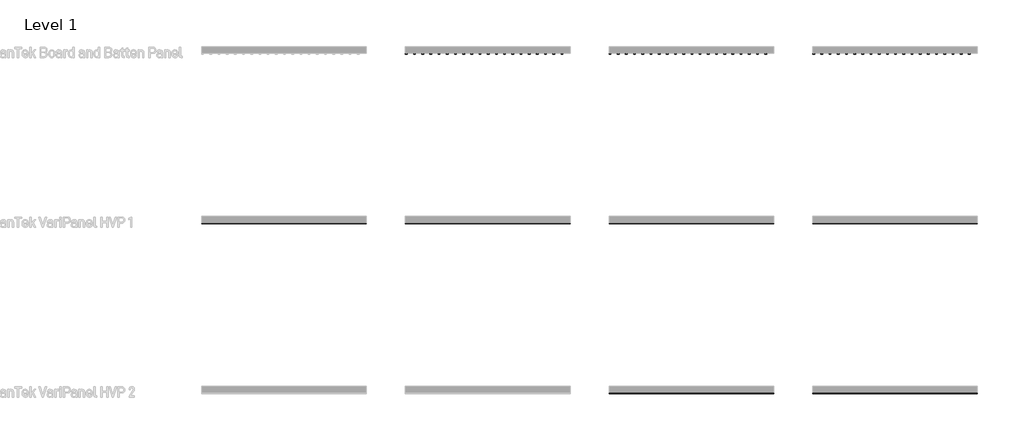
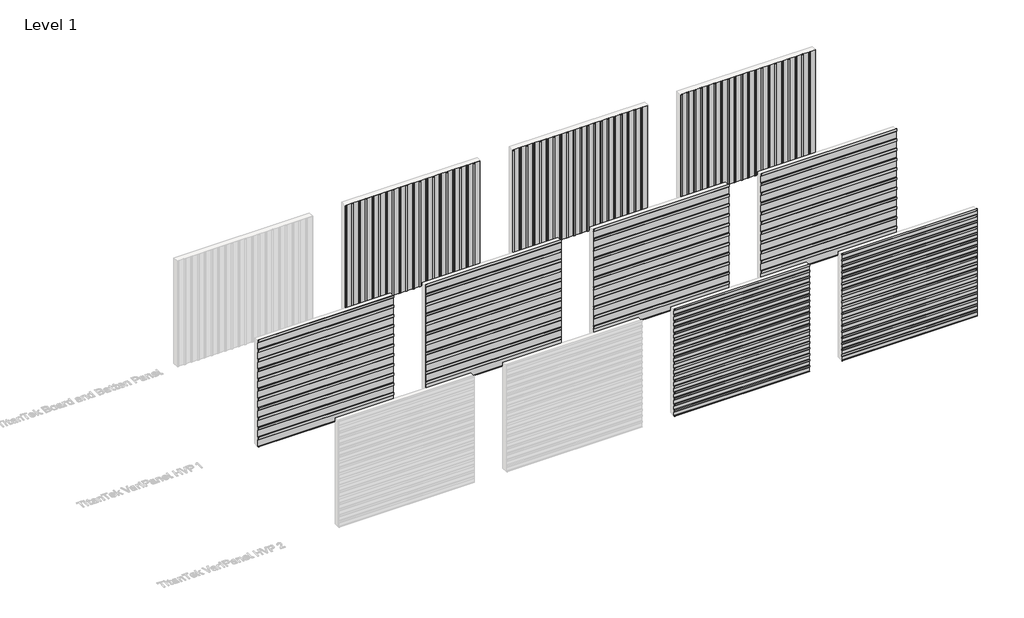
# One storey, part 8 of 9: 9 proxies.
"""IFC4 building model written with IfcOpenShell, lengths in millimetres."""

from ifc_helpers import new_model, si_unit, frame, origin, place, context, project, spatial, polyline, outline, extrude, transform, mapped, element, save
from components import titantek_board_and_batten_panel_aluminum_slate_gray_d83a0c41

model = new_model("IFC4")

# Units and contexts
model_context = context("Model", 3, world=origin())
ifc_project = project(units=[si_unit("LENGTHUNIT", "METRE", prefix="MILLI")], contexts=[model_context])

# Site, building, storey
site = spatial("IfcSite", under=ifc_project)
building = spatial("IfcBuilding", under=site)
storey = spatial("IfcBuildingStorey", under=building, Name="Level 1", Elevation=0.0)

# Proxies
placement = place(None, origin())
element("IfcBuildingElementProxy", 1, Name="TitanTek VariPanel HVP 1 : Aluminum Slate Gray", ObjectType="TitanTek VariPanel HVP 1 : Aluminum Slate Gray", at=placement, inside=storey, context=model_context, shape_type="SweptSolid", body=[
    extrude(outline(polyline([(-7945.79831, 3962.4494524), (-7921.3904975, 3937.4691739), (-7921.3904975, 3692.3692814), (-7945.79831, 3683.0), (-7945.79831, 3684.0627767), (-7922.382685, 3693.051193), (-7922.382685, 3937.064917), (-7946.7904975, 3962.0451955), (-7946.7904975, 4051.9819116), (-7945.79831, 4052.3627767), (-7945.79831, 3962.4494524)])), frame((-2360.5897817, 0.0, 0.0), z_axis=(1.0, 0.0, 0.0), x_axis=(0.0, 1.0, 0.0)), (0.0, 0.0, 1.0), 4850.0),
    extrude(outline(polyline([(-7945.79831, 3594.1494524), (-7921.3904975, 3569.1691739), (-7921.3904975, 3324.0692814), (-7945.79831, 3314.7), (-7945.79831, 3315.7627767), (-7922.382685, 3324.751193), (-7922.382685, 3568.764917), (-7946.7904975, 3593.7451955), (-7946.7904975, 3683.6819116), (-7945.79831, 3684.0627767), (-7945.79831, 3594.1494524)])), frame((-2360.5897817, 0.0, 0.0), z_axis=(1.0, 0.0, 0.0), x_axis=(0.0, 1.0, 0.0)), (0.0, 0.0, 1.0), 4850.0),
    extrude(outline(polyline([(-7945.79831, 3225.8494524), (-7921.3904975, 3200.8691739), (-7921.3904975, 2955.7692814), (-7945.79831, 2946.4), (-7945.79831, 2947.4627767), (-7922.382685, 2956.451193), (-7922.382685, 3200.464917), (-7946.7904975, 3225.4451955), (-7946.7904975, 3315.3819116), (-7945.79831, 3315.7627767), (-7945.79831, 3225.8494524)])), frame((-2360.5897817, 0.0, 0.0), z_axis=(1.0, 0.0, 0.0), x_axis=(0.0, 1.0, 0.0)), (0.0, 0.0, 1.0), 4850.0),
    extrude(outline(polyline([(-7945.79831, 2857.5494524), (-7921.3904975, 2832.5691739), (-7921.3904975, 2587.4692814), (-7945.79831, 2578.1), (-7945.79831, 2579.1627767), (-7922.382685, 2588.151193), (-7922.382685, 2832.164917), (-7946.7904975, 2857.1451955), (-7946.7904975, 2947.0819116), (-7945.79831, 2947.4627767), (-7945.79831, 2857.5494524)])), frame((-2360.5897817, 0.0, 0.0), z_axis=(1.0, 0.0, 0.0), x_axis=(0.0, 1.0, 0.0)), (0.0, 0.0, 1.0), 4850.0),
    extrude(outline(polyline([(-7945.79831, 2489.2494524), (-7921.3904975, 2464.2691739), (-7921.3904975, 2219.1692814), (-7945.79831, 2209.8), (-7945.79831, 2210.8627767), (-7922.382685, 2219.851193), (-7922.382685, 2463.864917), (-7946.7904975, 2488.8451955), (-7946.7904975, 2578.7819116), (-7945.79831, 2579.1627767), (-7945.79831, 2489.2494524)])), frame((-2360.5897817, 0.0, 0.0), z_axis=(1.0, 0.0, 0.0), x_axis=(0.0, 1.0, 0.0)), (0.0, 0.0, 1.0), 4850.0),
    extrude(outline(polyline([(-7945.79831, 2120.9494524), (-7921.3904975, 2095.9691739), (-7921.3904975, 1850.8692814), (-7945.79831, 1841.5), (-7945.79831, 1842.5627767), (-7922.382685, 1851.551193), (-7922.382685, 2095.564917), (-7946.7904975, 2120.5451955), (-7946.7904975, 2210.4819116), (-7945.79831, 2210.8627767), (-7945.79831, 2120.9494524)])), frame((-2360.5897817, 0.0, 0.0), z_axis=(1.0, 0.0, 0.0), x_axis=(0.0, 1.0, 0.0)), (0.0, 0.0, 1.0), 4850.0),
    extrude(outline(polyline([(-7945.79831, 1752.6494524), (-7921.3904975, 1727.6691739), (-7921.3904975, 1482.5692814), (-7945.79831, 1473.2), (-7945.79831, 1474.2627767), (-7922.382685, 1483.251193), (-7922.382685, 1727.264917), (-7946.7904975, 1752.2451955), (-7946.7904975, 1842.1819116), (-7945.79831, 1842.5627767), (-7945.79831, 1752.6494524)])), frame((-2360.5897817, 0.0, 0.0), z_axis=(1.0, 0.0, 0.0), x_axis=(0.0, 1.0, 0.0)), (0.0, 0.0, 1.0), 4850.0),
    extrude(outline(polyline([(-7945.79831, 1384.3494524), (-7921.3904975, 1359.3691739), (-7921.3904975, 1114.2692814), (-7945.79831, 1104.9), (-7945.79831, 1105.9627767), (-7922.382685, 1114.951193), (-7922.382685, 1358.964917), (-7946.7904975, 1383.9451955), (-7946.7904975, 1473.8819116), (-7945.79831, 1474.2627767), (-7945.79831, 1384.3494524)])), frame((-2360.5897817, 0.0, 0.0), z_axis=(1.0, 0.0, 0.0), x_axis=(0.0, 1.0, 0.0)), (0.0, 0.0, 1.0), 4850.0),
    extrude(outline(polyline([(-7945.79831, 1016.0494524), (-7921.3904975, 991.0691739), (-7921.3904975, 745.9692814), (-7945.79831, 736.6), (-7945.79831, 737.6627767), (-7922.382685, 746.651193), (-7922.382685, 990.664917), (-7946.7904975, 1015.6451955), (-7946.7904975, 1105.5819116), (-7945.79831, 1105.9627767), (-7945.79831, 1016.0494524)])), frame((-2360.5897817, 0.0, 0.0), z_axis=(1.0, 0.0, 0.0), x_axis=(0.0, 1.0, 0.0)), (0.0, 0.0, 1.0), 4850.0),
    extrude(outline(polyline([(-7945.79831, 647.7494524), (-7921.3904975, 622.7691739), (-7921.3904975, 377.6692814), (-7945.79831, 368.3), (-7945.79831, 369.3627767), (-7922.382685, 378.351193), (-7922.382685, 622.364917), (-7946.7904975, 647.3451955), (-7946.7904975, 737.2819116), (-7945.79831, 737.6627767), (-7945.79831, 647.7494524)])), frame((-2360.5897817, 0.0, 0.0), z_axis=(1.0, 0.0, 0.0), x_axis=(0.0, 1.0, 0.0)), (0.0, 0.0, 1.0), 4850.0),
    extrude(outline(polyline([(-7945.79831, 279.4494524), (-7921.3904975, 254.4691739), (-7921.3904975, 9.3692814), (-7945.79831, 0.0), (-7945.79831, 1.0627767), (-7922.382685, 10.051193), (-7922.382685, 254.064917), (-7946.7904975, 279.0451955), (-7946.7904975, 368.9819116), (-7945.79831, 369.3627767), (-7945.79831, 279.4494524)])), frame((-2360.5897817, 0.0, 0.0), z_axis=(1.0, 0.0, 0.0), x_axis=(0.0, 1.0, 0.0)), (0.0, 0.0, 1.0), 4850.0),
])
element("IfcBuildingElementProxy", 2, Name="TitanTek VariPanel HVP 1 : Steel Bone White", ObjectType="TitanTek VariPanel HVP 1 : Steel Bone White", at=placement, inside=storey, context=model_context, shape_type="SweptSolid", body=[
    extrude(outline(polyline([(-7945.79831, 279.4494524), (-7921.3904975, 254.4691739), (-7921.3904975, 9.3692814), (-7945.79831, 0.0), (-7945.79831, 1.0627767), (-7922.382685, 10.051193), (-7922.382685, 254.064917), (-7946.7904975, 279.0451955), (-7946.7904975, 368.9819116), (-7945.79831, 369.3627767), (-7945.79831, 279.4494524)])), frame((15639.4102183, 0.0, 0.0), z_axis=(1.0, 0.0, 0.0), x_axis=(0.0, 1.0, 0.0)), (0.0, 0.0, 1.0), 4850.0),
    extrude(outline(polyline([(-7945.79831, 647.7494524), (-7921.3904975, 622.7691739), (-7921.3904975, 377.6692814), (-7945.79831, 368.3), (-7945.79831, 369.3627767), (-7922.382685, 378.351193), (-7922.382685, 622.364917), (-7946.7904975, 647.3451955), (-7946.7904975, 737.2819116), (-7945.79831, 737.6627767), (-7945.79831, 647.7494524)])), frame((15639.4102183, 0.0, 0.0), z_axis=(1.0, 0.0, 0.0), x_axis=(0.0, 1.0, 0.0)), (0.0, 0.0, 1.0), 4850.0),
    extrude(outline(polyline([(-7945.79831, 1016.0494524), (-7921.3904975, 991.0691739), (-7921.3904975, 745.9692814), (-7945.79831, 736.6), (-7945.79831, 737.6627767), (-7922.382685, 746.651193), (-7922.382685, 990.664917), (-7946.7904975, 1015.6451955), (-7946.7904975, 1105.5819116), (-7945.79831, 1105.9627767), (-7945.79831, 1016.0494524)])), frame((15639.4102183, 0.0, 0.0), z_axis=(1.0, 0.0, 0.0), x_axis=(0.0, 1.0, 0.0)), (0.0, 0.0, 1.0), 4850.0),
    extrude(outline(polyline([(-7945.79831, 1384.3494524), (-7921.3904975, 1359.3691739), (-7921.3904975, 1114.2692814), (-7945.79831, 1104.9), (-7945.79831, 1105.9627767), (-7922.382685, 1114.951193), (-7922.382685, 1358.964917), (-7946.7904975, 1383.9451955), (-7946.7904975, 1473.8819116), (-7945.79831, 1474.2627767), (-7945.79831, 1384.3494524)])), frame((15639.4102183, 0.0, 0.0), z_axis=(1.0, 0.0, 0.0), x_axis=(0.0, 1.0, 0.0)), (0.0, 0.0, 1.0), 4850.0),
    extrude(outline(polyline([(-7945.79831, 1752.6494524), (-7921.3904975, 1727.6691739), (-7921.3904975, 1482.5692814), (-7945.79831, 1473.2), (-7945.79831, 1474.2627767), (-7922.382685, 1483.251193), (-7922.382685, 1727.264917), (-7946.7904975, 1752.2451955), (-7946.7904975, 1842.1819116), (-7945.79831, 1842.5627767), (-7945.79831, 1752.6494524)])), frame((15639.4102183, 0.0, 0.0), z_axis=(1.0, 0.0, 0.0), x_axis=(0.0, 1.0, 0.0)), (0.0, 0.0, 1.0), 4850.0),
    extrude(outline(polyline([(-7945.79831, 2120.9494524), (-7921.3904975, 2095.9691739), (-7921.3904975, 1850.8692814), (-7945.79831, 1841.5), (-7945.79831, 1842.5627767), (-7922.382685, 1851.551193), (-7922.382685, 2095.564917), (-7946.7904975, 2120.5451955), (-7946.7904975, 2210.4819116), (-7945.79831, 2210.8627767), (-7945.79831, 2120.9494524)])), frame((15639.4102183, 0.0, 0.0), z_axis=(1.0, 0.0, 0.0), x_axis=(0.0, 1.0, 0.0)), (0.0, 0.0, 1.0), 4850.0),
    extrude(outline(polyline([(-7945.79831, 2489.2494524), (-7921.3904975, 2464.2691739), (-7921.3904975, 2219.1692814), (-7945.79831, 2209.8), (-7945.79831, 2210.8627767), (-7922.382685, 2219.851193), (-7922.382685, 2463.864917), (-7946.7904975, 2488.8451955), (-7946.7904975, 2578.7819116), (-7945.79831, 2579.1627767), (-7945.79831, 2489.2494524)])), frame((15639.4102183, 0.0, 0.0), z_axis=(1.0, 0.0, 0.0), x_axis=(0.0, 1.0, 0.0)), (0.0, 0.0, 1.0), 4850.0),
    extrude(outline(polyline([(-7945.79831, 2857.5494524), (-7921.3904975, 2832.5691739), (-7921.3904975, 2587.4692814), (-7945.79831, 2578.1), (-7945.79831, 2579.1627767), (-7922.382685, 2588.151193), (-7922.382685, 2832.164917), (-7946.7904975, 2857.1451955), (-7946.7904975, 2947.0819116), (-7945.79831, 2947.4627767), (-7945.79831, 2857.5494524)])), frame((15639.4102183, 0.0, 0.0), z_axis=(1.0, 0.0, 0.0), x_axis=(0.0, 1.0, 0.0)), (0.0, 0.0, 1.0), 4850.0),
    extrude(outline(polyline([(-7945.79831, 3225.8494524), (-7921.3904975, 3200.8691739), (-7921.3904975, 2955.7692814), (-7945.79831, 2946.4), (-7945.79831, 2947.4627767), (-7922.382685, 2956.451193), (-7922.382685, 3200.464917), (-7946.7904975, 3225.4451955), (-7946.7904975, 3315.3819116), (-7945.79831, 3315.7627767), (-7945.79831, 3225.8494524)])), frame((15639.4102183, 0.0, 0.0), z_axis=(1.0, 0.0, 0.0), x_axis=(0.0, 1.0, 0.0)), (0.0, 0.0, 1.0), 4850.0),
    extrude(outline(polyline([(-7945.79831, 3594.1494524), (-7921.3904975, 3569.1691739), (-7921.3904975, 3324.0692814), (-7945.79831, 3314.7), (-7945.79831, 3315.7627767), (-7922.382685, 3324.751193), (-7922.382685, 3568.764917), (-7946.7904975, 3593.7451955), (-7946.7904975, 3683.6819116), (-7945.79831, 3684.0627767), (-7945.79831, 3594.1494524)])), frame((15639.4102183, 0.0, 0.0), z_axis=(1.0, 0.0, 0.0), x_axis=(0.0, 1.0, 0.0)), (0.0, 0.0, 1.0), 4850.0),
    extrude(outline(polyline([(-7945.79831, 3962.4494524), (-7921.3904975, 3937.4691739), (-7921.3904975, 3692.3692814), (-7945.79831, 3683.0), (-7945.79831, 3684.0627767), (-7922.382685, 3693.051193), (-7922.382685, 3937.064917), (-7946.7904975, 3962.0451955), (-7946.7904975, 4051.9819116), (-7945.79831, 4052.3627767), (-7945.79831, 3962.4494524)])), frame((15639.4102183, 0.0, 0.0), z_axis=(1.0, 0.0, 0.0), x_axis=(0.0, 1.0, 0.0)), (0.0, 0.0, 1.0), 4850.0),
])
element("IfcBuildingElementProxy", 3, Name="TitanTek VariPanel HVP 2 : Steel Bone White", ObjectType="TitanTek VariPanel HVP 2 : Steel Bone White", at=placement, inside=storey, context=model_context, shape_type="SweptSolid", body=[
    extrude(outline(polyline([(-12945.79831, 390.929257), (-12921.3904975, 365.9489785), (-12921.3904975, 238.9489785), (-12945.79831, 229.5796971), (-12945.79831, 161.3495599), (-12921.3904975, 136.3692814), (-12921.3904975, 9.3692814), (-12945.79831, 0.0), (-12945.79831, 1.0627767), (-12922.382685, 10.051193), (-12922.382685, 135.9650244), (-12946.7904975, 160.9453029), (-12946.7904975, 230.2616087), (-12922.382685, 239.63089), (-12922.382685, 365.5447215), (-12946.7904975, 390.525), (-12946.7904975, 450.4691349), (-12945.79831, 450.85), (-12945.79831, 390.929257)])), frame((15639.4102183, 0.0, 0.0), z_axis=(1.0, 0.0, 0.0), x_axis=(0.0, 1.0, 0.0)), (0.0, 0.0, 1.0), 4850.0),
    extrude(outline(polyline([(-12945.79831, 841.779257), (-12921.3904975, 816.7989785), (-12921.3904975, 689.7989785), (-12945.79831, 680.4296971), (-12945.79831, 612.1995599), (-12921.3904975, 587.2192814), (-12921.3904975, 460.2192814), (-12945.79831, 450.85), (-12945.79831, 451.9127767), (-12922.382685, 460.901193), (-12922.382685, 586.8150244), (-12946.7904975, 611.7953029), (-12946.7904975, 681.1116087), (-12922.382685, 690.48089), (-12922.382685, 816.3947215), (-12946.7904975, 841.375), (-12946.7904975, 901.3191349), (-12945.79831, 901.7), (-12945.79831, 841.779257)])), frame((15639.4102183, 0.0, 0.0), z_axis=(1.0, 0.0, 0.0), x_axis=(0.0, 1.0, 0.0)), (0.0, 0.0, 1.0), 4850.0),
    extrude(outline(polyline([(-12945.79831, 1292.629257), (-12921.3904975, 1267.6489785), (-12921.3904975, 1140.6489785), (-12945.79831, 1131.2796971), (-12945.79831, 1063.0495599), (-12921.3904975, 1038.0692814), (-12921.3904975, 911.0692814), (-12945.79831, 901.7), (-12945.79831, 902.7627767), (-12922.382685, 911.751193), (-12922.382685, 1037.6650244), (-12946.7904975, 1062.6453029), (-12946.7904975, 1131.9616087), (-12922.382685, 1141.33089), (-12922.382685, 1267.2447215), (-12946.7904975, 1292.225), (-12946.7904975, 1352.1691349), (-12945.79831, 1352.55), (-12945.79831, 1292.629257)])), frame((15639.4102183, 0.0, 0.0), z_axis=(1.0, 0.0, 0.0), x_axis=(0.0, 1.0, 0.0)), (0.0, 0.0, 1.0), 4850.0),
    extrude(outline(polyline([(-12945.79831, 1743.479257), (-12921.3904975, 1718.4989785), (-12921.3904975, 1591.4989785), (-12945.79831, 1582.1296971), (-12945.79831, 1513.8995599), (-12921.3904975, 1488.9192814), (-12921.3904975, 1361.9192814), (-12945.79831, 1352.55), (-12945.79831, 1353.6127767), (-12922.382685, 1362.601193), (-12922.382685, 1488.5150244), (-12946.7904975, 1513.4953029), (-12946.7904975, 1582.8116087), (-12922.382685, 1592.18089), (-12922.382685, 1718.0947215), (-12946.7904975, 1743.075), (-12946.7904975, 1803.0191349), (-12945.79831, 1803.4), (-12945.79831, 1743.479257)])), frame((15639.4102183, 0.0, 0.0), z_axis=(1.0, 0.0, 0.0), x_axis=(0.0, 1.0, 0.0)), (0.0, 0.0, 1.0), 4850.0),
    extrude(outline(polyline([(-12945.79831, 2194.329257), (-12921.3904975, 2169.3489785), (-12921.3904975, 2042.3489785), (-12945.79831, 2032.9796971), (-12945.79831, 1964.7495599), (-12921.3904975, 1939.7692814), (-12921.3904975, 1812.7692814), (-12945.79831, 1803.4), (-12945.79831, 1804.4627767), (-12922.382685, 1813.451193), (-12922.382685, 1939.3650244), (-12946.7904975, 1964.3453029), (-12946.7904975, 2033.6616087), (-12922.382685, 2043.03089), (-12922.382685, 2168.9447215), (-12946.7904975, 2193.925), (-12946.7904975, 2253.8691349), (-12945.79831, 2254.25), (-12945.79831, 2194.329257)])), frame((15639.4102183, 0.0, 0.0), z_axis=(1.0, 0.0, 0.0), x_axis=(0.0, 1.0, 0.0)), (0.0, 0.0, 1.0), 4850.0),
    extrude(outline(polyline([(-12945.79831, 2645.179257), (-12921.3904975, 2620.1989785), (-12921.3904975, 2493.1989785), (-12945.79831, 2483.8296971), (-12945.79831, 2415.5995599), (-12921.3904975, 2390.6192814), (-12921.3904975, 2263.6192814), (-12945.79831, 2254.25), (-12945.79831, 2255.3127767), (-12922.382685, 2264.301193), (-12922.382685, 2390.2150244), (-12946.7904975, 2415.1953029), (-12946.7904975, 2484.5116087), (-12922.382685, 2493.88089), (-12922.382685, 2619.7947215), (-12946.7904975, 2644.775), (-12946.7904975, 2704.7191349), (-12945.79831, 2705.1), (-12945.79831, 2645.179257)])), frame((15639.4102183, 0.0, 0.0), z_axis=(1.0, 0.0, 0.0), x_axis=(0.0, 1.0, 0.0)), (0.0, 0.0, 1.0), 4850.0),
    extrude(outline(polyline([(-12945.79831, 3096.029257), (-12921.3904975, 3071.0489785), (-12921.3904975, 2944.0489785), (-12945.79831, 2934.6796971), (-12945.79831, 2866.4495599), (-12921.3904975, 2841.4692814), (-12921.3904975, 2714.4692814), (-12945.79831, 2705.1), (-12945.79831, 2706.1627767), (-12922.382685, 2715.151193), (-12922.382685, 2841.0650244), (-12946.7904975, 2866.0453029), (-12946.7904975, 2935.3616087), (-12922.382685, 2944.73089), (-12922.382685, 3070.6447215), (-12946.7904975, 3095.625), (-12946.7904975, 3155.5691349), (-12945.79831, 3155.95), (-12945.79831, 3096.029257)])), frame((15639.4102183, 0.0, 0.0), z_axis=(1.0, 0.0, 0.0), x_axis=(0.0, 1.0, 0.0)), (0.0, 0.0, 1.0), 4850.0),
    extrude(outline(polyline([(-12945.79831, 3546.879257), (-12921.3904975, 3521.8989785), (-12921.3904975, 3394.8989785), (-12945.79831, 3385.5296971), (-12945.79831, 3317.2995599), (-12921.3904975, 3292.3192814), (-12921.3904975, 3165.3192814), (-12945.79831, 3155.95), (-12945.79831, 3157.0127767), (-12922.382685, 3166.001193), (-12922.382685, 3291.9150244), (-12946.7904975, 3316.8953029), (-12946.7904975, 3386.2116087), (-12922.382685, 3395.58089), (-12922.382685, 3521.4947215), (-12946.7904975, 3546.475), (-12946.7904975, 3606.4191349), (-12945.79831, 3606.8), (-12945.79831, 3546.879257)])), frame((15639.4102183, 0.0, 0.0), z_axis=(1.0, 0.0, 0.0), x_axis=(0.0, 1.0, 0.0)), (0.0, 0.0, 1.0), 4850.0),
    extrude(outline(polyline([(-12945.79831, 3997.729257), (-12921.3904975, 3972.7489785), (-12921.3904975, 3845.7489785), (-12945.79831, 3836.3796971), (-12945.79831, 3768.1495599), (-12921.3904975, 3743.1692814), (-12921.3904975, 3616.1692814), (-12945.79831, 3606.8), (-12945.79831, 3607.8627767), (-12922.382685, 3616.851193), (-12922.382685, 3742.7650244), (-12946.7904975, 3767.7453029), (-12946.7904975, 3837.0616087), (-12922.382685, 3846.43089), (-12922.382685, 3972.3447215), (-12946.7904975, 3997.325), (-12946.7904975, 4057.2691349), (-12945.79831, 4057.65), (-12945.79831, 3997.729257)])), frame((15639.4102183, 0.0, 0.0), z_axis=(1.0, 0.0, 0.0), x_axis=(0.0, 1.0, 0.0)), (0.0, 0.0, 1.0), 4850.0),
])
element("IfcBuildingElementProxy", 4, Name="TitanTek VariPanel HVP 1 : Steel Hemlock Green", ObjectType="TitanTek VariPanel HVP 1 : Steel Hemlock Green", at=placement, inside=storey, context=model_context, shape_type="SweptSolid", body=[
    extrude(outline(polyline([(-7945.79831, 279.4494524), (-7921.3904975, 254.4691739), (-7921.3904975, 9.3692814), (-7945.79831, 0.0), (-7945.79831, 1.0627767), (-7922.382685, 10.051193), (-7922.382685, 254.064917), (-7946.7904975, 279.0451955), (-7946.7904975, 368.9819116), (-7945.79831, 369.3627767), (-7945.79831, 279.4494524)])), frame((9639.4102183, 0.0, 0.0), z_axis=(1.0, 0.0, 0.0), x_axis=(0.0, 1.0, 0.0)), (0.0, 0.0, 1.0), 4850.0),
    extrude(outline(polyline([(-7945.79831, 647.7494524), (-7921.3904975, 622.7691739), (-7921.3904975, 377.6692814), (-7945.79831, 368.3), (-7945.79831, 369.3627767), (-7922.382685, 378.351193), (-7922.382685, 622.364917), (-7946.7904975, 647.3451955), (-7946.7904975, 737.2819116), (-7945.79831, 737.6627767), (-7945.79831, 647.7494524)])), frame((9639.4102183, 0.0, 0.0), z_axis=(1.0, 0.0, 0.0), x_axis=(0.0, 1.0, 0.0)), (0.0, 0.0, 1.0), 4850.0),
    extrude(outline(polyline([(-7945.79831, 1016.0494524), (-7921.3904975, 991.0691739), (-7921.3904975, 745.9692814), (-7945.79831, 736.6), (-7945.79831, 737.6627767), (-7922.382685, 746.651193), (-7922.382685, 990.664917), (-7946.7904975, 1015.6451955), (-7946.7904975, 1105.5819116), (-7945.79831, 1105.9627767), (-7945.79831, 1016.0494524)])), frame((9639.4102183, 0.0, 0.0), z_axis=(1.0, 0.0, 0.0), x_axis=(0.0, 1.0, 0.0)), (0.0, 0.0, 1.0), 4850.0),
    extrude(outline(polyline([(-7945.79831, 1384.3494524), (-7921.3904975, 1359.3691739), (-7921.3904975, 1114.2692814), (-7945.79831, 1104.9), (-7945.79831, 1105.9627767), (-7922.382685, 1114.951193), (-7922.382685, 1358.964917), (-7946.7904975, 1383.9451955), (-7946.7904975, 1473.8819116), (-7945.79831, 1474.2627767), (-7945.79831, 1384.3494524)])), frame((9639.4102183, 0.0, 0.0), z_axis=(1.0, 0.0, 0.0), x_axis=(0.0, 1.0, 0.0)), (0.0, 0.0, 1.0), 4850.0),
    extrude(outline(polyline([(-7945.79831, 1752.6494524), (-7921.3904975, 1727.6691739), (-7921.3904975, 1482.5692814), (-7945.79831, 1473.2), (-7945.79831, 1474.2627767), (-7922.382685, 1483.251193), (-7922.382685, 1727.264917), (-7946.7904975, 1752.2451955), (-7946.7904975, 1842.1819116), (-7945.79831, 1842.5627767), (-7945.79831, 1752.6494524)])), frame((9639.4102183, 0.0, 0.0), z_axis=(1.0, 0.0, 0.0), x_axis=(0.0, 1.0, 0.0)), (0.0, 0.0, 1.0), 4850.0),
    extrude(outline(polyline([(-7945.79831, 2120.9494524), (-7921.3904975, 2095.9691739), (-7921.3904975, 1850.8692814), (-7945.79831, 1841.5), (-7945.79831, 1842.5627767), (-7922.382685, 1851.551193), (-7922.382685, 2095.564917), (-7946.7904975, 2120.5451955), (-7946.7904975, 2210.4819116), (-7945.79831, 2210.8627767), (-7945.79831, 2120.9494524)])), frame((9639.4102183, 0.0, 0.0), z_axis=(1.0, 0.0, 0.0), x_axis=(0.0, 1.0, 0.0)), (0.0, 0.0, 1.0), 4850.0),
    extrude(outline(polyline([(-7945.79831, 2489.2494524), (-7921.3904975, 2464.2691739), (-7921.3904975, 2219.1692814), (-7945.79831, 2209.8), (-7945.79831, 2210.8627767), (-7922.382685, 2219.851193), (-7922.382685, 2463.864917), (-7946.7904975, 2488.8451955), (-7946.7904975, 2578.7819116), (-7945.79831, 2579.1627767), (-7945.79831, 2489.2494524)])), frame((9639.4102183, 0.0, 0.0), z_axis=(1.0, 0.0, 0.0), x_axis=(0.0, 1.0, 0.0)), (0.0, 0.0, 1.0), 4850.0),
    extrude(outline(polyline([(-7945.79831, 2857.5494524), (-7921.3904975, 2832.5691739), (-7921.3904975, 2587.4692814), (-7945.79831, 2578.1), (-7945.79831, 2579.1627767), (-7922.382685, 2588.151193), (-7922.382685, 2832.164917), (-7946.7904975, 2857.1451955), (-7946.7904975, 2947.0819116), (-7945.79831, 2947.4627767), (-7945.79831, 2857.5494524)])), frame((9639.4102183, 0.0, 0.0), z_axis=(1.0, 0.0, 0.0), x_axis=(0.0, 1.0, 0.0)), (0.0, 0.0, 1.0), 4850.0),
    extrude(outline(polyline([(-7945.79831, 3225.8494524), (-7921.3904975, 3200.8691739), (-7921.3904975, 2955.7692814), (-7945.79831, 2946.4), (-7945.79831, 2947.4627767), (-7922.382685, 2956.451193), (-7922.382685, 3200.464917), (-7946.7904975, 3225.4451955), (-7946.7904975, 3315.3819116), (-7945.79831, 3315.7627767), (-7945.79831, 3225.8494524)])), frame((9639.4102183, 0.0, 0.0), z_axis=(1.0, 0.0, 0.0), x_axis=(0.0, 1.0, 0.0)), (0.0, 0.0, 1.0), 4850.0),
    extrude(outline(polyline([(-7945.79831, 3594.1494524), (-7921.3904975, 3569.1691739), (-7921.3904975, 3324.0692814), (-7945.79831, 3314.7), (-7945.79831, 3315.7627767), (-7922.382685, 3324.751193), (-7922.382685, 3568.764917), (-7946.7904975, 3593.7451955), (-7946.7904975, 3683.6819116), (-7945.79831, 3684.0627767), (-7945.79831, 3594.1494524)])), frame((9639.4102183, 0.0, 0.0), z_axis=(1.0, 0.0, 0.0), x_axis=(0.0, 1.0, 0.0)), (0.0, 0.0, 1.0), 4850.0),
    extrude(outline(polyline([(-7945.79831, 3962.4494524), (-7921.3904975, 3937.4691739), (-7921.3904975, 3692.3692814), (-7945.79831, 3683.0), (-7945.79831, 3684.0627767), (-7922.382685, 3693.051193), (-7922.382685, 3937.064917), (-7946.7904975, 3962.0451955), (-7946.7904975, 4051.9819116), (-7945.79831, 4052.3627767), (-7945.79831, 3962.4494524)])), frame((9639.4102183, 0.0, 0.0), z_axis=(1.0, 0.0, 0.0), x_axis=(0.0, 1.0, 0.0)), (0.0, 0.0, 1.0), 4850.0),
])
element("IfcBuildingElementProxy", 5, Name="TitanTek VariPanel HVP 2 : Steel Hemlock Green", ObjectType="TitanTek VariPanel HVP 2 : Steel Hemlock Green", at=placement, inside=storey, context=model_context, shape_type="SweptSolid", body=[
    extrude(outline(polyline([(-12945.79831, 390.929257), (-12921.3904975, 365.9489785), (-12921.3904975, 238.9489785), (-12945.79831, 229.5796971), (-12945.79831, 161.3495599), (-12921.3904975, 136.3692814), (-12921.3904975, 9.3692814), (-12945.79831, 0.0), (-12945.79831, 1.0627767), (-12922.382685, 10.051193), (-12922.382685, 135.9650244), (-12946.7904975, 160.9453029), (-12946.7904975, 230.2616087), (-12922.382685, 239.63089), (-12922.382685, 365.5447215), (-12946.7904975, 390.525), (-12946.7904975, 450.4691349), (-12945.79831, 450.85), (-12945.79831, 390.929257)])), frame((9639.4102183, 0.0, 0.0), z_axis=(1.0, 0.0, 0.0), x_axis=(0.0, 1.0, 0.0)), (0.0, 0.0, 1.0), 4850.0),
    extrude(outline(polyline([(-12945.79831, 841.779257), (-12921.3904975, 816.7989785), (-12921.3904975, 689.7989785), (-12945.79831, 680.4296971), (-12945.79831, 612.1995599), (-12921.3904975, 587.2192814), (-12921.3904975, 460.2192814), (-12945.79831, 450.85), (-12945.79831, 451.9127767), (-12922.382685, 460.901193), (-12922.382685, 586.8150244), (-12946.7904975, 611.7953029), (-12946.7904975, 681.1116087), (-12922.382685, 690.48089), (-12922.382685, 816.3947215), (-12946.7904975, 841.375), (-12946.7904975, 901.3191349), (-12945.79831, 901.7), (-12945.79831, 841.779257)])), frame((9639.4102183, 0.0, 0.0), z_axis=(1.0, 0.0, 0.0), x_axis=(0.0, 1.0, 0.0)), (0.0, 0.0, 1.0), 4850.0),
    extrude(outline(polyline([(-12945.79831, 1292.629257), (-12921.3904975, 1267.6489785), (-12921.3904975, 1140.6489785), (-12945.79831, 1131.2796971), (-12945.79831, 1063.0495599), (-12921.3904975, 1038.0692814), (-12921.3904975, 911.0692814), (-12945.79831, 901.7), (-12945.79831, 902.7627767), (-12922.382685, 911.751193), (-12922.382685, 1037.6650244), (-12946.7904975, 1062.6453029), (-12946.7904975, 1131.9616087), (-12922.382685, 1141.33089), (-12922.382685, 1267.2447215), (-12946.7904975, 1292.225), (-12946.7904975, 1352.1691349), (-12945.79831, 1352.55), (-12945.79831, 1292.629257)])), frame((9639.4102183, 0.0, 0.0), z_axis=(1.0, 0.0, 0.0), x_axis=(0.0, 1.0, 0.0)), (0.0, 0.0, 1.0), 4850.0),
    extrude(outline(polyline([(-12945.79831, 1743.479257), (-12921.3904975, 1718.4989785), (-12921.3904975, 1591.4989785), (-12945.79831, 1582.1296971), (-12945.79831, 1513.8995599), (-12921.3904975, 1488.9192814), (-12921.3904975, 1361.9192814), (-12945.79831, 1352.55), (-12945.79831, 1353.6127767), (-12922.382685, 1362.601193), (-12922.382685, 1488.5150244), (-12946.7904975, 1513.4953029), (-12946.7904975, 1582.8116087), (-12922.382685, 1592.18089), (-12922.382685, 1718.0947215), (-12946.7904975, 1743.075), (-12946.7904975, 1803.0191349), (-12945.79831, 1803.4), (-12945.79831, 1743.479257)])), frame((9639.4102183, 0.0, 0.0), z_axis=(1.0, 0.0, 0.0), x_axis=(0.0, 1.0, 0.0)), (0.0, 0.0, 1.0), 4850.0),
    extrude(outline(polyline([(-12945.79831, 2194.329257), (-12921.3904975, 2169.3489785), (-12921.3904975, 2042.3489785), (-12945.79831, 2032.9796971), (-12945.79831, 1964.7495599), (-12921.3904975, 1939.7692814), (-12921.3904975, 1812.7692814), (-12945.79831, 1803.4), (-12945.79831, 1804.4627767), (-12922.382685, 1813.451193), (-12922.382685, 1939.3650244), (-12946.7904975, 1964.3453029), (-12946.7904975, 2033.6616087), (-12922.382685, 2043.03089), (-12922.382685, 2168.9447215), (-12946.7904975, 2193.925), (-12946.7904975, 2253.8691349), (-12945.79831, 2254.25), (-12945.79831, 2194.329257)])), frame((9639.4102183, 0.0, 0.0), z_axis=(1.0, 0.0, 0.0), x_axis=(0.0, 1.0, 0.0)), (0.0, 0.0, 1.0), 4850.0),
    extrude(outline(polyline([(-12945.79831, 2645.179257), (-12921.3904975, 2620.1989785), (-12921.3904975, 2493.1989785), (-12945.79831, 2483.8296971), (-12945.79831, 2415.5995599), (-12921.3904975, 2390.6192814), (-12921.3904975, 2263.6192814), (-12945.79831, 2254.25), (-12945.79831, 2255.3127767), (-12922.382685, 2264.301193), (-12922.382685, 2390.2150244), (-12946.7904975, 2415.1953029), (-12946.7904975, 2484.5116087), (-12922.382685, 2493.88089), (-12922.382685, 2619.7947215), (-12946.7904975, 2644.775), (-12946.7904975, 2704.7191349), (-12945.79831, 2705.1), (-12945.79831, 2645.179257)])), frame((9639.4102183, 0.0, 0.0), z_axis=(1.0, 0.0, 0.0), x_axis=(0.0, 1.0, 0.0)), (0.0, 0.0, 1.0), 4850.0),
    extrude(outline(polyline([(-12945.79831, 3096.029257), (-12921.3904975, 3071.0489785), (-12921.3904975, 2944.0489785), (-12945.79831, 2934.6796971), (-12945.79831, 2866.4495599), (-12921.3904975, 2841.4692814), (-12921.3904975, 2714.4692814), (-12945.79831, 2705.1), (-12945.79831, 2706.1627767), (-12922.382685, 2715.151193), (-12922.382685, 2841.0650244), (-12946.7904975, 2866.0453029), (-12946.7904975, 2935.3616087), (-12922.382685, 2944.73089), (-12922.382685, 3070.6447215), (-12946.7904975, 3095.625), (-12946.7904975, 3155.5691349), (-12945.79831, 3155.95), (-12945.79831, 3096.029257)])), frame((9639.4102183, 0.0, 0.0), z_axis=(1.0, 0.0, 0.0), x_axis=(0.0, 1.0, 0.0)), (0.0, 0.0, 1.0), 4850.0),
    extrude(outline(polyline([(-12945.79831, 3546.879257), (-12921.3904975, 3521.8989785), (-12921.3904975, 3394.8989785), (-12945.79831, 3385.5296971), (-12945.79831, 3317.2995599), (-12921.3904975, 3292.3192814), (-12921.3904975, 3165.3192814), (-12945.79831, 3155.95), (-12945.79831, 3157.0127767), (-12922.382685, 3166.001193), (-12922.382685, 3291.9150244), (-12946.7904975, 3316.8953029), (-12946.7904975, 3386.2116087), (-12922.382685, 3395.58089), (-12922.382685, 3521.4947215), (-12946.7904975, 3546.475), (-12946.7904975, 3606.4191349), (-12945.79831, 3606.8), (-12945.79831, 3546.879257)])), frame((9639.4102183, 0.0, 0.0), z_axis=(1.0, 0.0, 0.0), x_axis=(0.0, 1.0, 0.0)), (0.0, 0.0, 1.0), 4850.0),
    extrude(outline(polyline([(-12945.79831, 3997.729257), (-12921.3904975, 3972.7489785), (-12921.3904975, 3845.7489785), (-12945.79831, 3836.3796971), (-12945.79831, 3768.1495599), (-12921.3904975, 3743.1692814), (-12921.3904975, 3616.1692814), (-12945.79831, 3606.8), (-12945.79831, 3607.8627767), (-12922.382685, 3616.851193), (-12922.382685, 3742.7650244), (-12946.7904975, 3767.7453029), (-12946.7904975, 3837.0616087), (-12922.382685, 3846.43089), (-12922.382685, 3972.3447215), (-12946.7904975, 3997.325), (-12946.7904975, 4057.2691349), (-12945.79831, 4057.65), (-12945.79831, 3997.729257)])), frame((9639.4102183, 0.0, 0.0), z_axis=(1.0, 0.0, 0.0), x_axis=(0.0, 1.0, 0.0)), (0.0, 0.0, 1.0), 4850.0),
])
element("IfcBuildingElementProxy", 6, Name="TitanTek VariPanel HVP 1 : Steel Regal Red", ObjectType="TitanTek VariPanel HVP 1 : Steel Regal Red", at=placement, inside=storey, context=model_context, shape_type="SweptSolid", body=[
    extrude(outline(polyline([(-7945.79831, 279.4494524), (-7921.3904975, 254.4691739), (-7921.3904975, 9.3692814), (-7945.79831, 0.0), (-7945.79831, 1.0627767), (-7922.382685, 10.051193), (-7922.382685, 254.064917), (-7946.7904975, 279.0451955), (-7946.7904975, 368.9819116), (-7945.79831, 369.3627767), (-7945.79831, 279.4494524)])), frame((3639.4102183, 0.0, 0.0), z_axis=(1.0, 0.0, 0.0), x_axis=(0.0, 1.0, 0.0)), (0.0, 0.0, 1.0), 4850.0),
    extrude(outline(polyline([(-7945.79831, 647.7494524), (-7921.3904975, 622.7691739), (-7921.3904975, 377.6692814), (-7945.79831, 368.3), (-7945.79831, 369.3627767), (-7922.382685, 378.351193), (-7922.382685, 622.364917), (-7946.7904975, 647.3451955), (-7946.7904975, 737.2819116), (-7945.79831, 737.6627767), (-7945.79831, 647.7494524)])), frame((3639.4102183, 0.0, 0.0), z_axis=(1.0, 0.0, 0.0), x_axis=(0.0, 1.0, 0.0)), (0.0, 0.0, 1.0), 4850.0),
    extrude(outline(polyline([(-7945.79831, 1016.0494524), (-7921.3904975, 991.0691739), (-7921.3904975, 745.9692814), (-7945.79831, 736.6), (-7945.79831, 737.6627767), (-7922.382685, 746.651193), (-7922.382685, 990.664917), (-7946.7904975, 1015.6451955), (-7946.7904975, 1105.5819116), (-7945.79831, 1105.9627767), (-7945.79831, 1016.0494524)])), frame((3639.4102183, 0.0, 0.0), z_axis=(1.0, 0.0, 0.0), x_axis=(0.0, 1.0, 0.0)), (0.0, 0.0, 1.0), 4850.0),
    extrude(outline(polyline([(-7945.79831, 1384.3494524), (-7921.3904975, 1359.3691739), (-7921.3904975, 1114.2692814), (-7945.79831, 1104.9), (-7945.79831, 1105.9627767), (-7922.382685, 1114.951193), (-7922.382685, 1358.964917), (-7946.7904975, 1383.9451955), (-7946.7904975, 1473.8819116), (-7945.79831, 1474.2627767), (-7945.79831, 1384.3494524)])), frame((3639.4102183, 0.0, 0.0), z_axis=(1.0, 0.0, 0.0), x_axis=(0.0, 1.0, 0.0)), (0.0, 0.0, 1.0), 4850.0),
    extrude(outline(polyline([(-7945.79831, 1752.6494524), (-7921.3904975, 1727.6691739), (-7921.3904975, 1482.5692814), (-7945.79831, 1473.2), (-7945.79831, 1474.2627767), (-7922.382685, 1483.251193), (-7922.382685, 1727.264917), (-7946.7904975, 1752.2451955), (-7946.7904975, 1842.1819116), (-7945.79831, 1842.5627767), (-7945.79831, 1752.6494524)])), frame((3639.4102183, 0.0, 0.0), z_axis=(1.0, 0.0, 0.0), x_axis=(0.0, 1.0, 0.0)), (0.0, 0.0, 1.0), 4850.0),
    extrude(outline(polyline([(-7945.79831, 2120.9494524), (-7921.3904975, 2095.9691739), (-7921.3904975, 1850.8692814), (-7945.79831, 1841.5), (-7945.79831, 1842.5627767), (-7922.382685, 1851.551193), (-7922.382685, 2095.564917), (-7946.7904975, 2120.5451955), (-7946.7904975, 2210.4819116), (-7945.79831, 2210.8627767), (-7945.79831, 2120.9494524)])), frame((3639.4102183, 0.0, 0.0), z_axis=(1.0, 0.0, 0.0), x_axis=(0.0, 1.0, 0.0)), (0.0, 0.0, 1.0), 4850.0),
    extrude(outline(polyline([(-7945.79831, 2489.2494524), (-7921.3904975, 2464.2691739), (-7921.3904975, 2219.1692814), (-7945.79831, 2209.8), (-7945.79831, 2210.8627767), (-7922.382685, 2219.851193), (-7922.382685, 2463.864917), (-7946.7904975, 2488.8451955), (-7946.7904975, 2578.7819116), (-7945.79831, 2579.1627767), (-7945.79831, 2489.2494524)])), frame((3639.4102183, 0.0, 0.0), z_axis=(1.0, 0.0, 0.0), x_axis=(0.0, 1.0, 0.0)), (0.0, 0.0, 1.0), 4850.0),
    extrude(outline(polyline([(-7945.79831, 2857.5494524), (-7921.3904975, 2832.5691739), (-7921.3904975, 2587.4692814), (-7945.79831, 2578.1), (-7945.79831, 2579.1627767), (-7922.382685, 2588.151193), (-7922.382685, 2832.164917), (-7946.7904975, 2857.1451955), (-7946.7904975, 2947.0819116), (-7945.79831, 2947.4627767), (-7945.79831, 2857.5494524)])), frame((3639.4102183, 0.0, 0.0), z_axis=(1.0, 0.0, 0.0), x_axis=(0.0, 1.0, 0.0)), (0.0, 0.0, 1.0), 4850.0),
    extrude(outline(polyline([(-7945.79831, 3225.8494524), (-7921.3904975, 3200.8691739), (-7921.3904975, 2955.7692814), (-7945.79831, 2946.4), (-7945.79831, 2947.4627767), (-7922.382685, 2956.451193), (-7922.382685, 3200.464917), (-7946.7904975, 3225.4451955), (-7946.7904975, 3315.3819116), (-7945.79831, 3315.7627767), (-7945.79831, 3225.8494524)])), frame((3639.4102183, 0.0, 0.0), z_axis=(1.0, 0.0, 0.0), x_axis=(0.0, 1.0, 0.0)), (0.0, 0.0, 1.0), 4850.0),
    extrude(outline(polyline([(-7945.79831, 3594.1494524), (-7921.3904975, 3569.1691739), (-7921.3904975, 3324.0692814), (-7945.79831, 3314.7), (-7945.79831, 3315.7627767), (-7922.382685, 3324.751193), (-7922.382685, 3568.764917), (-7946.7904975, 3593.7451955), (-7946.7904975, 3683.6819116), (-7945.79831, 3684.0627767), (-7945.79831, 3594.1494524)])), frame((3639.4102183, 0.0, 0.0), z_axis=(1.0, 0.0, 0.0), x_axis=(0.0, 1.0, 0.0)), (0.0, 0.0, 1.0), 4850.0),
    extrude(outline(polyline([(-7945.79831, 3962.4494524), (-7921.3904975, 3937.4691739), (-7921.3904975, 3692.3692814), (-7945.79831, 3683.0), (-7945.79831, 3684.0627767), (-7922.382685, 3693.051193), (-7922.382685, 3937.064917), (-7946.7904975, 3962.0451955), (-7946.7904975, 4051.9819116), (-7945.79831, 4052.3627767), (-7945.79831, 3962.4494524)])), frame((3639.4102183, 0.0, 0.0), z_axis=(1.0, 0.0, 0.0), x_axis=(0.0, 1.0, 0.0)), (0.0, 0.0, 1.0), 4850.0),
])
titantek_board_and_batten_panel_aluminum_slate_gray_shape = titantek_board_and_batten_panel_aluminum_slate_gray_d83a0c41(model_context)
element("IfcBuildingElementProxy", 7, Name="TitanTek Board and Batten Panel : Steel Bone White", ObjectType="TitanTek Board and Batten Panel : Steel Bone White", at=placement, inside=storey, context=model_context, shape_type="MappedRepresentation", body=[
    mapped(titantek_board_and_batten_panel_aluminum_slate_gray_shape, transform((15639.4102183, -2921.3904975, 0.0), x_axis=(1.0, 0.0, 0.0), y_axis=(0.0, 1.0, 0.0), z_axis=(0.0, 0.0, 1.0))),
])
element("IfcBuildingElementProxy", 8, Name="TitanTek Board and Batten Panel : Steel Hemlock Green", ObjectType="TitanTek Board and Batten Panel : Steel Hemlock Green", at=placement, inside=storey, context=model_context, shape_type="MappedRepresentation", body=[
    mapped(titantek_board_and_batten_panel_aluminum_slate_gray_shape, transform((9639.4102183, -2921.3904975, 0.0), x_axis=(1.0, 0.0, 0.0), y_axis=(0.0, 1.0, 0.0), z_axis=(0.0, 0.0, 1.0))),
])
element("IfcBuildingElementProxy", 9, Name="TitanTek Board and Batten Panel : Steel Regal Red", ObjectType="TitanTek Board and Batten Panel : Steel Regal Red", at=placement, inside=storey, context=model_context, shape_type="MappedRepresentation", body=[
    mapped(titantek_board_and_batten_panel_aluminum_slate_gray_shape, transform((3639.4102183, -2921.3904975, 0.0), x_axis=(1.0, 0.0, 0.0), y_axis=(0.0, 1.0, 0.0), z_axis=(0.0, 0.0, 1.0))),
])

save(model, "model.ifc")
